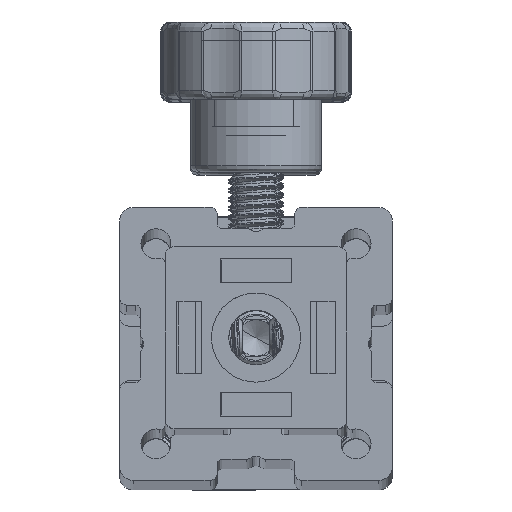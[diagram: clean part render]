
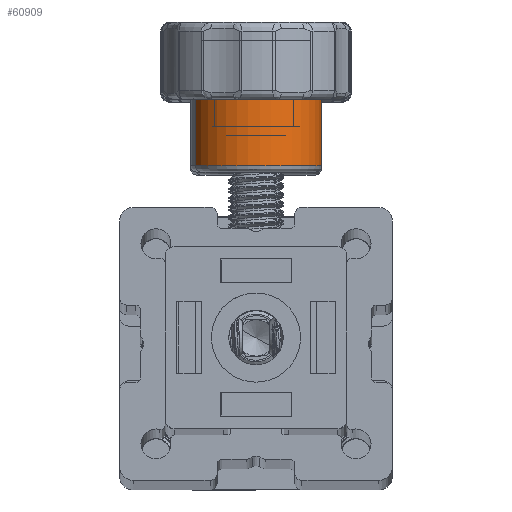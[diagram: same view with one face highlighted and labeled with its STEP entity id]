
A CAD part, top view. The second image highlights one B-rep face of the part: STEP entity #60909.
In plain terms, the highlighted cylindrical face has radius 7.25 mm (diameter 14.5 mm), a partial arc.
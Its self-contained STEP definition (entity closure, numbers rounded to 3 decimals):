
#1833 = CIRCLE ( 'NONE', #27002, 7.25 ) ;
#2656 = EDGE_CURVE ( 'NONE', #56806, #51624, #53898, .T. ) ;
#3235 = DIRECTION ( 'NONE',  ( 0., -1., 0. ) ) ;
#9348 = CARTESIAN_POINT ( 'NONE',  ( 0., 0., -7.25 ) ) ;
#9766 = DIRECTION ( 'NONE',  ( 0., -1., 0. ) ) ;
#16346 = DIRECTION ( 'NONE',  ( 0., -1., 0. ) ) ;
#17478 = AXIS2_PLACEMENT_3D ( 'NONE', #47328, #9766, #51433 ) ;
#17932 = AXIS2_PLACEMENT_3D ( 'NONE', #25216, #67505, #36104 ) ;
#19713 = ORIENTED_EDGE ( 'NONE', *, *, #56034, .F. ) ;
#23124 = VERTEX_POINT ( 'NONE', #65856 ) ;
#23263 = EDGE_CURVE ( 'NONE', #23124, #56806, #59378, .T. ) ;
#25216 = CARTESIAN_POINT ( 'NONE',  ( 0., 15.8, 0. ) ) ;
#25459 = LINE ( 'NONE', #9348, #35838 ) ;
#26537 = FACE_OUTER_BOUND ( 'NONE', #45635, .T. ) ;
#27002 = AXIS2_PLACEMENT_3D ( 'NONE', #43422, #29109, #38312 ) ;
#27355 = ORIENTED_EDGE ( 'NONE', *, *, #36738, .F. ) ;
#28928 = VECTOR ( 'NONE', #16346, 1000. ) ;
#29109 = DIRECTION ( 'NONE',  ( 0., -1., 0. ) ) ;
#31330 = CYLINDRICAL_SURFACE ( 'NONE', #17478, 7.25 ) ;
#32722 = CARTESIAN_POINT ( 'NONE',  ( 0., 2., 7.25 ) ) ;
#35838 = VECTOR ( 'NONE', #3235, 1000. ) ;
#36104 = DIRECTION ( 'NONE',  ( 0., 0., -1. ) ) ;
#36738 = EDGE_CURVE ( 'NONE', #58740, #51624, #1833, .T. ) ;
#38312 = DIRECTION ( 'NONE',  ( 0., 0., -1. ) ) ;
#43422 = CARTESIAN_POINT ( 'NONE',  ( 0., 2., 0. ) ) ;
#45635 = EDGE_LOOP ( 'NONE', ( #64937, #54536, #27355, #19713 ) ) ;
#47328 = CARTESIAN_POINT ( 'NONE',  ( 0., 0., 0. ) ) ;
#48105 = CARTESIAN_POINT ( 'NONE',  ( 0., 0., 7.25 ) ) ;
#51433 = DIRECTION ( 'NONE',  ( 0., 0., -1. ) ) ;
#51624 = VERTEX_POINT ( 'NONE', #32722 ) ;
#53898 = LINE ( 'NONE', #48105, #28928 ) ;
#54536 = ORIENTED_EDGE ( 'NONE', *, *, #2656, .T. ) ;
#56034 = EDGE_CURVE ( 'NONE', #23124, #58740, #25459, .T. ) ;
#56806 = VERTEX_POINT ( 'NONE', #64676 ) ;
#58089 = CARTESIAN_POINT ( 'NONE',  ( 0., 2., -7.25 ) ) ;
#58740 = VERTEX_POINT ( 'NONE', #58089 ) ;
#59378 = CIRCLE ( 'NONE', #17932, 7.25 ) ;
#60909 = ADVANCED_FACE ( 'NONE', ( #26537 ), #31330, .T. ) ;
#64676 = CARTESIAN_POINT ( 'NONE',  ( 0., 15.8, 7.25 ) ) ;
#64937 = ORIENTED_EDGE ( 'NONE', *, *, #23263, .T. ) ;
#65856 = CARTESIAN_POINT ( 'NONE',  ( 0., 15.8, -7.25 ) ) ;
#67505 = DIRECTION ( 'NONE',  ( 0., -1., 0. ) ) ;
